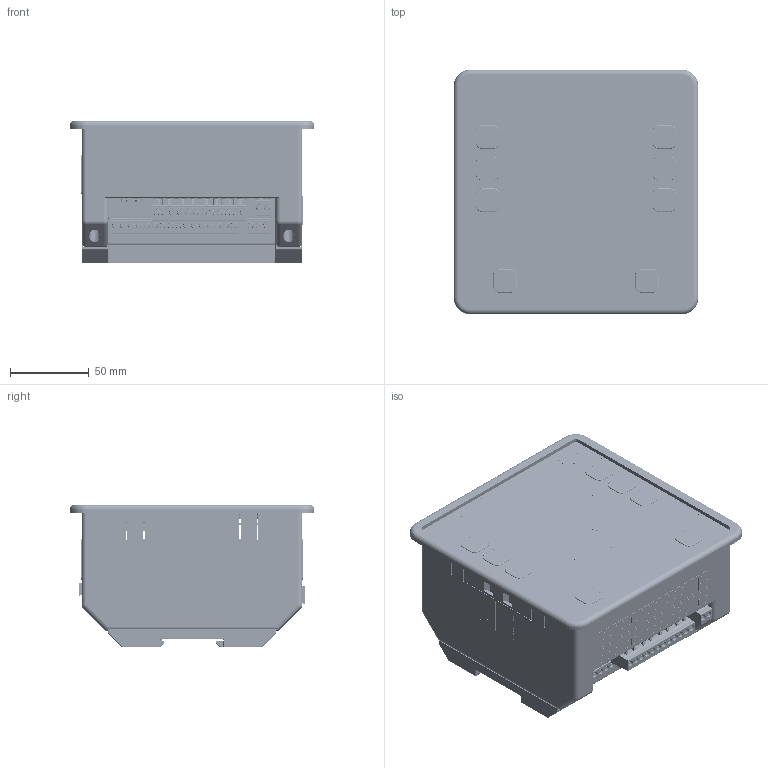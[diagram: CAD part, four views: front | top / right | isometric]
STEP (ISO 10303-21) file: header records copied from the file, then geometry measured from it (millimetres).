
FILE_DESCRIPTION(('STEP AP203'), '1');
FILE_NAME('ÃÆÈÊ. 648486.056 ÁÀÂÐ+àäàïòåð', '', ('UNSPECIFIED'), ('UNSPECIFIED'), 'C3D Converter', 'C3D Toolkit', '');
FILE_SCHEMA(('CONFIG_CONTROL_DESIGN'));
Length unit declared in the file: millimetre
Products named in the file (73): Панель лицевая ГЖИК.735341.033; Изолятор ГЖИК.735584.069; PCB; Board; Open CASCADE STEP translator 7.5 1.1.1; ГЖИК.467855.; Крышка ГЖИК.731195.011; Open CASCADE STEP translator 6.8 1.1.1; X9; MSTBV2,5_2-G_1753437; X8; X7; X6; X5; X14; 1753479_4P,Pitch5,0_(2EDGV_5EHDV_MSTBV); mstbv_2.5-4-g; X10; X11; X12; X13; X1; c-1734366-1-c1-3d; Open CASCADE STEP translator 6.8 1.260.1.1; Open CASCADE STEP translator 6.8 1.260.1.2; 2EDGK-5.0-04P-14-1000A(H)-T0; 2EDGK-5.0-03P-14-1000A(H)-T0; PRT0005; User Library-FRJAE-468; Адаптер ГЖИК.735341.035
Assembly tree (134 placements, depth 5):
  (unnamed)
    Панель лицевая ГЖИК.735341.033
    Изолятор ГЖИК.735584.069
    PCB
      Board
        Open CASCADE STEP translator 7.5 1.1.1
    ГЖИК.467855.
    Крышка ГЖИК.731195.011
    (unnamed)
    (unnamed)
    PCB
      Board
        Open CASCADE STEP translator 6.8 1.1.1
      X9
        MSTBV2,5_2-G_1753437
      X8
        MSTBV2,5_2-G_1753437  x2
      X7
        MSTBV2,5_2-G_1753437  x2
      X6
        MSTBV2,5_2-G_1753437  x2
      X5
        MSTBV2,5_2-G_1753437  x2
      X14
        1753479_4P,Pitch5,0_(2EDGV_5EHDV_MSTBV)
          mstbv_2.5-4-g
      X10
        1753479_4P,Pitch5,0_(2EDGV_5EHDV_MSTBV)
          mstbv_2.5-4-g
      X11
        1753479_4P,Pitch5,0_(2EDGV_5EHDV_MSTBV)
          mstbv_2.5-4-g
      X12
        1753479_4P,Pitch5,0_(2EDGV_5EHDV_MSTBV)
          mstbv_2.5-4-g
      X13
        1753479_4P,Pitch5,0_(2EDGV_5EHDV_MSTBV)
          mstbv_2.5-4-g
      X1
        c-1734366-1-c1-3d
          Open CASCADE STEP translator 6.8 1.260.1.1
          Open CASCADE STEP translator 6.8 1.260.1.2
    (unnamed)  x8
    (unnamed)  x3
    (unnamed)
    (unnamed)
    (unnamed)  x4
    (unnamed)
    (unnamed)
    2EDGK-5.0-04P-14-1000A(H)-T0  x5
    2EDGK-5.0-03P-14-1000A(H)-T0  x5
    2EDGK-5.0-04P-14-1000A(H)-T0  x4
    (unnamed)
    (unnamed)
    (unnamed)  x2
    (unnamed)  x3
    (unnamed)
    (unnamed)
    (unnamed)  x4
    (unnamed)  x4
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Bounding box: 155 x 155 x 90.2 mm (x, y, z)
Volume: 496788.7 mm3; surface area: 518044.3 mm2
Topology: 128 solids, 163 shells, 33155 faces, 89729 edges, 58201 vertices
Faces by surface type: plane 19872, cylinder 9309, extrusion 1950, torus 918, cone 385, sphere 383, bspline 338
Full cylindrical faces by diameter (mm): 0.434 x14, 0.6 x8, 0.69 x3, 0.7 x6, 0.75 x4, 0.8 x4, 0.888 x4, 0.9 x76, 0.97 x2, 1 x129, 1.05 x8, 1.1 x20, 1.2 x10, 1.3 x73, 1.4 x94, 1.6 x69, 1.7 x4, 2 x8, 2.013 x8, 2.35 x2, 2.459 x7, 2.5 x17, 2.7 x11, 2.8 x24, 2.9 x10, 3 x84, 3.25 x2, 3.252 x2, 3.254 x3, 3.5 x8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
Entity records: 997810 total; most frequent: CARTESIAN_POINT 190643, ORIENTED_EDGE 129432, DIRECTION 123112, EDGE_CURVE 64716, VECTOR 43396, VERTEX_POINT 42763, LINE 41446, AXIS2_PLACEMENT_3D 39858
